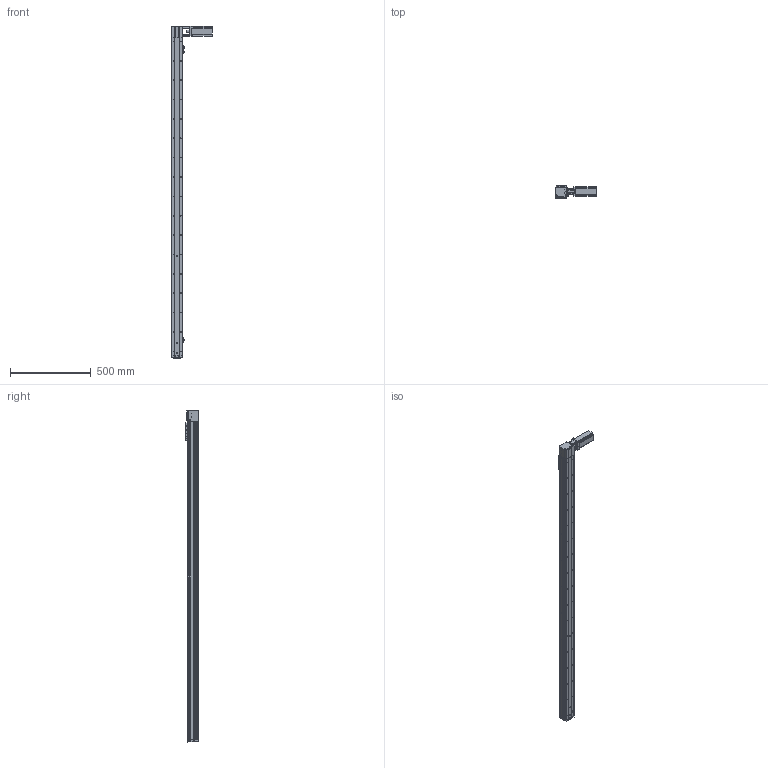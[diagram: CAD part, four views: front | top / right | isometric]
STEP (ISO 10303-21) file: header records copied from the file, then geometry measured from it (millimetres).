
FILE_DESCRIPTION (( 'STEP AP214' ), '1' );
FILE_NAME ('KSD68BS-S1800-MRT-CR.STEP', '2019-08-27T07:38:04', ( '微软用户' ), ( '微软中国' ), 'SwSTEP 2.0', 'SolidWorks 2014', '' );
FILE_SCHEMA (( 'AUTOMOTIVE_DESIGN' ));
Length unit declared in the file: millimetre
Products named in the file (13): KSD68BS-S1800-MRT-CR; 100遵鎮湛假蚾啣1; KSD68BS 1800行程盖板全封闭; 68遵裔啣揤啣1; 68宽单导轨全封闭丝杆传动安装板1防护罩; KSD68BS 1800行程侧板全封闭; 68宽单导轨全封闭同步带端板; 68单导轨全封闭同步带电机座左; 68单导轨全封闭同步带安装板; 感应片68宽全封闭; U倰嫖萇EEㄜSX672; 台达ECMA－C20604AS伺服电机（400W); KSD68BS 1800行程底板全封闭
Assembly tree (16 placements, depth 2):
  KSD68BS-S1800-MRT-CR
    KSD68BS 1800行程底板全封闭
    台达ECMA－C20604AS伺服电机（400W)
    U倰嫖萇EEㄜSX672  x3
    感应片68宽全封闭
    68单导轨全封闭同步带安装板
    68单导轨全封闭同步带电机座左
    68宽单导轨全封闭同步带端板
    KSD68BS 1800行程侧板全封闭  x2
    68宽单导轨全封闭丝杆传动安装板1防护罩
    68遵裔啣揤啣1  x2
    KSD68BS 1800行程盖板全封闭
    100遵鎮湛假蚾啣1
Bounding box: 252.7 x 77 x 2058.1 mm (x, y, z)
Volume: 3566868.5 mm3; surface area: 1439231 mm2
Topology: 17 solids, 17 shells, 1515 faces, 4380 edges, 2778 vertices
Faces by surface type: cylinder 717, plane 602, cone 196
Entity records: 49034 total; most frequent: CARTESIAN_POINT 8727, DIRECTION 7219, ORIENTED_EDGE 6956, EDGE_CURVE 3478, AXIS2_PLACEMENT_3D 2618, VERTEX_POINT 2276, VECTOR 1983, LINE 1983
